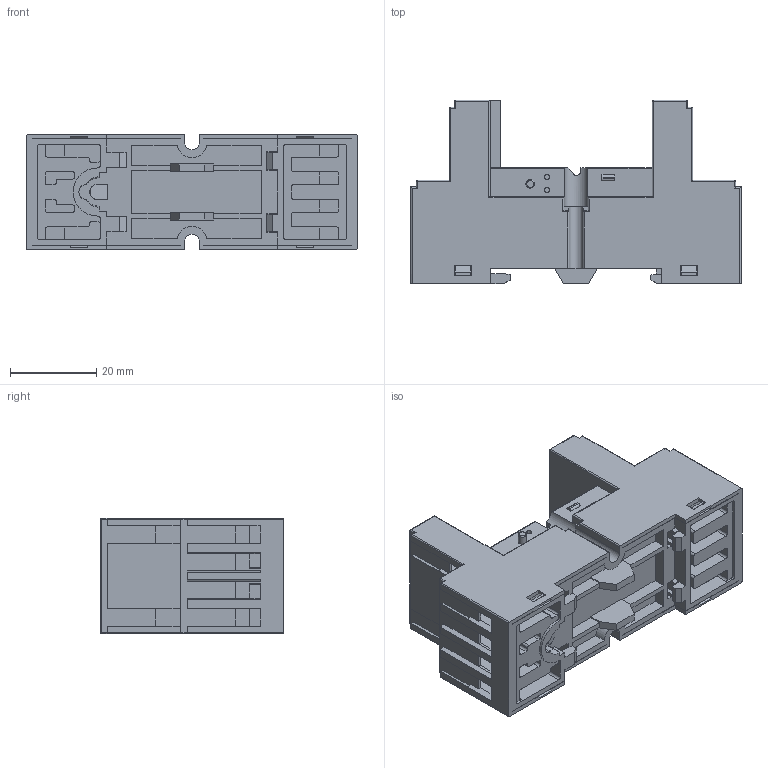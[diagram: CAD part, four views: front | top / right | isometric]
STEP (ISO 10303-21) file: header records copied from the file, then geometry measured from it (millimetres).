
FILE_DESCRIPTION (( 'STEP AP203' ), '1' );
FILE_NAME ('SKB14-E 軞蚾芞-妗.STEP', '2019-05-07T06:24:34', ( 'shenler' ), ( 'Microsoft' ), 'SwSTEP 2.0', 'SolidWorks 2017', '' );
FILE_SCHEMA (( 'CONFIG_CONTROL_DESIGN' ));
Products named in the file (1): SKB14-E 軞蚾芞-妗
Bounding box: 76.4 x 42.5 x 26.8 mm (x, y, z)
Volume: 35402.9 mm3; surface area: 33898.9 mm2
Topology: 1 solids, 15 shells, 1700 faces, 4732 edges, 3094 vertices
Faces by surface type: plane 1250, cylinder 287, cone 93, bspline 70
Entity records: 56303 total; most frequent: CARTESIAN_POINT 12341, ORIENTED_EDGE 9444, DIRECTION 8616, EDGE_CURVE 4722, VECTOR 3814, LINE 3814, VERTEX_POINT 3094, AXIS2_PLACEMENT_3D 2401
